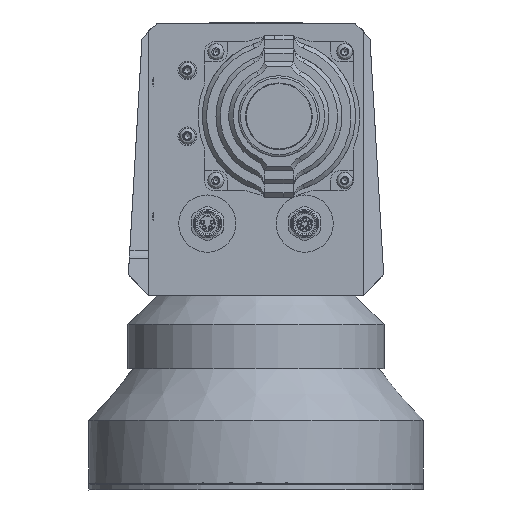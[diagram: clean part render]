
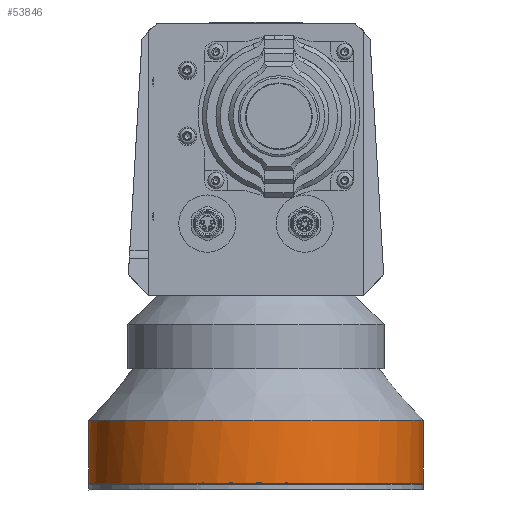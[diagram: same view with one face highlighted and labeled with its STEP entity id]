
A CAD part, front view. The second image highlights one B-rep face of the part: STEP entity #53846.
In plain terms, the highlighted cylindrical face has radius 58.5 mm (diameter 117 mm), a full revolution.
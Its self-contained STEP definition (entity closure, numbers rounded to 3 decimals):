
#51751=CYLINDRICAL_SURFACE('',#124261,58.5);
#52187=FACE_BOUND('',#66571,.T.);
#52188=FACE_BOUND('',#66572,.T.);
#53846=ADVANCED_FACE('',(#52187,#52188),#51751,.T.);
#66571=EDGE_LOOP('',(#72577));
#66572=EDGE_LOOP('',(#72578));
#72577=ORIENTED_EDGE('',*,*,#109571,.F.);
#72578=ORIENTED_EDGE('',*,*,#109572,.T.);
#99844=VERTEX_POINT('',#148043);
#99845=VERTEX_POINT('',#148046);
#109571=EDGE_CURVE('',#99844,#99844,#123209,.T.);
#109572=EDGE_CURVE('',#99845,#99845,#123210,.T.);
#123209=CIRCLE('',#124258,58.5);
#123210=CIRCLE('',#124260,58.5);
#124258=AXIS2_PLACEMENT_3D('',#148042,#129430,#129431);
#124260=AXIS2_PLACEMENT_3D('',#148045,#129434,#129435);
#124261=AXIS2_PLACEMENT_3D('',#148047,#129436,#129437);
#129430=DIRECTION('',(0.,0.,-1.));
#129431=DIRECTION('',(0.061,0.998,0.));
#129434=DIRECTION('',(0.,0.,-1.));
#129435=DIRECTION('',(0.061,0.998,0.));
#129436=DIRECTION('',(0.,0.,-1.));
#129437=DIRECTION('',(-0.061,-0.998,0.));
#148042=CARTESIAN_POINT('',(0.,287.55,-65.7));
#148043=CARTESIAN_POINT('',(3.554,345.942,-65.7));
#148045=CARTESIAN_POINT('',(0.,287.55,-43.7));
#148046=CARTESIAN_POINT('',(3.554,345.942,-43.7));
#148047=CARTESIAN_POINT('',(0.,287.55,-54.7));
